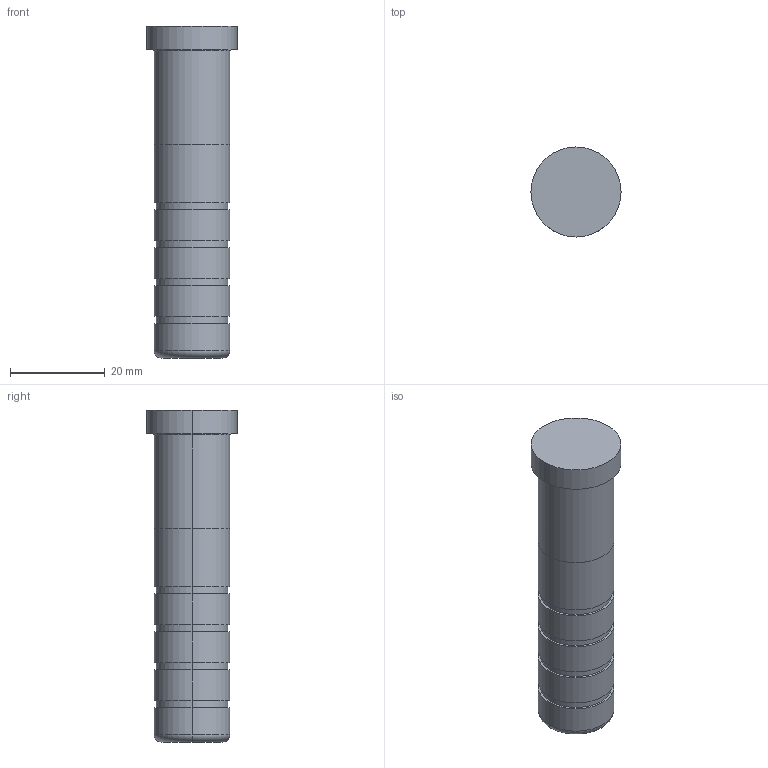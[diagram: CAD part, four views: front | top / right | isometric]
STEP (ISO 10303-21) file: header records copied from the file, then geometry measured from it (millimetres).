
FILE_DESCRIPTION(/* description */ (''),/* implementation_level */ '2;1');
FILE_NAME(/* name */ '3d_sgoh16-70_05232_r00.stp',/* time_stamp */ '2011-01-10T14:11:09+09:00',/* author */ ('MISUMI'),/* organization */ (''),/* preprocessor_version */ 'ST-DEVELOPER v11',/* originating_system */ 'UGS - NX 5.0',/* authorisation */ '');
FILE_SCHEMA (('CONFIG_CONTROL_DESIGN'));
Length unit declared in the file: millimetre
Products named in the file (1): 3d_sgoh16-70_05232_r00
Bounding box: 19 x 19 x 70 mm (x, y, z)
Volume: 14318 mm3; surface area: 4270 mm2
Topology: 1 solids, 1 shells, 37 faces, 72 edges, 46 vertices
Faces by surface type: cylinder 22, plane 11, torus 4
Entity records: 1054 total; most frequent: DIRECTION 198, CARTESIAN_POINT 156, ORIENTED_EDGE 144, AXIS2_PLACEMENT_3D 88, EDGE_CURVE 72, CIRCLE 50, EDGE_LOOP 46, VERTEX_POINT 46
